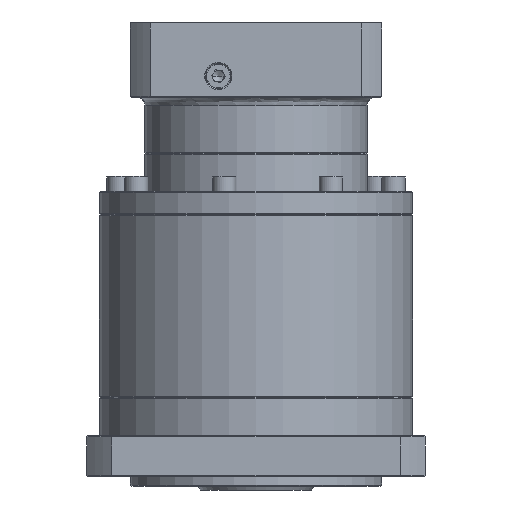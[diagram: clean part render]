
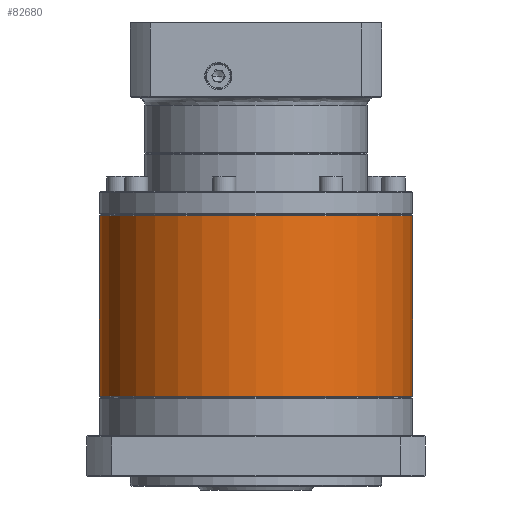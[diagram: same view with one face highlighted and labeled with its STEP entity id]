
A CAD part, front view. The second image highlights one B-rep face of the part: STEP entity #82680.
In plain terms, the highlighted cylindrical face has radius 81 mm (diameter 162 mm), a partial arc.
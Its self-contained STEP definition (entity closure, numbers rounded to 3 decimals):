
#8949 = DIRECTION ( 'NONE',  ( 0., 0., -1. ) ) ;
#13106 = ORIENTED_EDGE ( 'NONE', *, *, #43088, .T. ) ;
#16632 = VERTEX_POINT ( 'NONE', #90268 ) ;
#22357 = EDGE_CURVE ( 'NONE', #74478, #36726, #101412, .T. ) ;
#36726 = VERTEX_POINT ( 'NONE', #79270 ) ;
#37002 = AXIS2_PLACEMENT_3D ( 'NONE', #63921, #8949, #72331 ) ;
#38720 = VECTOR ( 'NONE', #103032, 1000. ) ;
#38790 = CARTESIAN_POINT ( 'NONE',  ( -93.129, 74.667, -215.633 ) ) ;
#43088 = EDGE_CURVE ( 'NONE', #16632, #36726, #57553, .T. ) ;
#43552 = EDGE_CURVE ( 'NONE', #74478, #84672, #89975, .T. ) ;
#46512 = DIRECTION ( 'NONE',  ( 0., 0., -1. ) ) ;
#47421 = DIRECTION ( 'NONE',  ( 0., 0., -1. ) ) ;
#49258 = ORIENTED_EDGE ( 'NONE', *, *, #22357, .F. ) ;
#49914 = FACE_OUTER_BOUND ( 'NONE', #63295, .T. ) ;
#55210 = DIRECTION ( 'NONE',  ( 0., 0., 1. ) ) ;
#55762 = AXIS2_PLACEMENT_3D ( 'NONE', #85855, #46512, #94227 ) ;
#57553 = CIRCLE ( 'NONE', #87980, 81. ) ;
#61186 = CARTESIAN_POINT ( 'NONE',  ( -12.129, 74.667, -122.133 ) ) ;
#63295 = EDGE_LOOP ( 'NONE', ( #49258, #98841, #90568, #13106 ) ) ;
#63758 = CYLINDRICAL_SURFACE ( 'NONE', #55762, 81. ) ;
#63921 = CARTESIAN_POINT ( 'NONE',  ( -93.129, 74.667, -122.133 ) ) ;
#65155 = LINE ( 'NONE', #103725, #38720 ) ;
#72331 = DIRECTION ( 'NONE',  ( -1., 0., 0. ) ) ;
#74478 = VERTEX_POINT ( 'NONE', #61186 ) ;
#79270 = CARTESIAN_POINT ( 'NONE',  ( -12.129, 74.667, -215.633 ) ) ;
#82680 = ADVANCED_FACE ( 'NONE', ( #49914 ), #63758, .T. ) ;
#84672 = VERTEX_POINT ( 'NONE', #98077 ) ;
#85855 = CARTESIAN_POINT ( 'NONE',  ( -93.129, 74.667, -121.633 ) ) ;
#87980 = AXIS2_PLACEMENT_3D ( 'NONE', #38790, #55210, #94145 ) ;
#89975 = CIRCLE ( 'NONE', #37002, 81. ) ;
#90268 = CARTESIAN_POINT ( 'NONE',  ( -174.129, 74.667, -215.633 ) ) ;
#90568 = ORIENTED_EDGE ( 'NONE', *, *, #94636, .T. ) ;
#93835 = VECTOR ( 'NONE', #47421, 1000. ) ;
#94145 = DIRECTION ( 'NONE',  ( -1., 0., 0. ) ) ;
#94227 = DIRECTION ( 'NONE',  ( -1., 0., 0. ) ) ;
#94636 = EDGE_CURVE ( 'NONE', #84672, #16632, #65155, .T. ) ;
#98077 = CARTESIAN_POINT ( 'NONE',  ( -174.129, 74.667, -122.133 ) ) ;
#98841 = ORIENTED_EDGE ( 'NONE', *, *, #43552, .T. ) ;
#101412 = LINE ( 'NONE', #103550, #93835 ) ;
#103032 = DIRECTION ( 'NONE',  ( 0., 0., -1. ) ) ;
#103550 = CARTESIAN_POINT ( 'NONE',  ( -12.129, 74.667, -121.633 ) ) ;
#103725 = CARTESIAN_POINT ( 'NONE',  ( -174.129, 74.667, -121.633 ) ) ;
